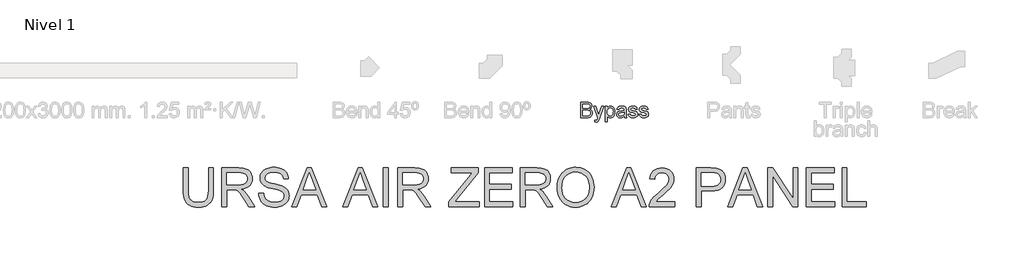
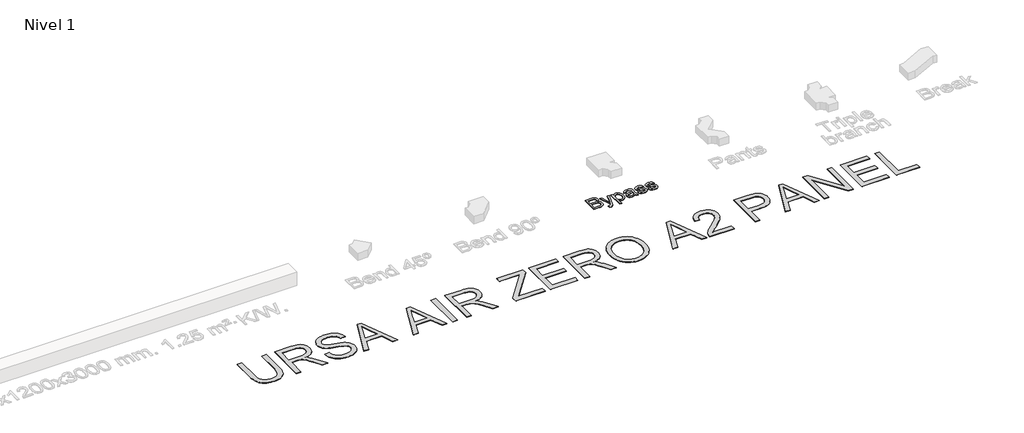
# One storey, part 3 of 6: 2 proxies.
"""IFC4 building model written with IfcOpenShell, lengths in millimetres."""

import ifcopenshell
import ifcopenshell.guid

model = None  # the IFC model being written
_history = None  # IfcOwnerHistory: only IFC2X3 demands one
_inside = {}  # id of a spatial element -> (the spatial element, [elements in it])
_under = {}  # id of a project, library or spatial element -> (it, [spatial elements below it])
_declared = {}  # id of a project -> (the project, [libraries it declares])
_typed = {}  # id of a type object -> (the type object, [elements of that type])
_made_of = {}  # id of a material, layer set ... -> (it, [elements and type objects made of it])


def new_model(schema):
    """Start an empty IFC model of exactly this schema.

    Asked for "IFC4X3", IfcOpenShell would pick the latest addendum, in which some entities
    have other attributes; the version numbers below select the first issue.
    IFC2X3 requires an IfcOwnerHistory on every rooted entity: one is made here for all.
    """
    global model, _history
    if schema == "IFC4X3":
        model = ifcopenshell.file(schema_version=(4, 3, 0, 0))
    else:
        model = ifcopenshell.file(schema=schema)
    _inside.clear()
    _under.clear()
    _declared.clear()
    _typed.clear()
    _made_of.clear()
    _history = None
    if model.schema == "IFC2X3":
        org = make("IfcOrganization", Name="unknown")
        user = make(
            "IfcPersonAndOrganization",
            ThePerson=make("IfcPerson", FamilyName="unknown"),
            TheOrganization=org,
        )
        app = make(
            "IfcApplication",
            ApplicationDeveloper=org,
            Version="unknown",
            ApplicationFullName="unknown",
            ApplicationIdentifier="unknown",
        )
        _history = make(
            "IfcOwnerHistory",
            OwningUser=user,
            OwningApplication=app,
            ChangeAction="ADDED",
            CreationDate=0,
        )
    return model


def make(cls, **values):
    """One entity of the class cls with the attributes given. An attribute that is None is left unset."""
    return model.create_entity(
        cls, **{name: value for name, value in values.items() if value is not None}
    )


def rooted(cls, **values):
    """An entity with a GlobalId (a new one), such as an element, a storey or a relation."""
    return make(cls, GlobalId=ifcopenshell.guid.new(), OwnerHistory=_history, **values)


def si_unit(unit_type, name, prefix=None):
    """IfcSIUnit, for example si_unit("LENGTHUNIT", "METRE", prefix="MILLI")."""
    return make("IfcSIUnit", UnitType=unit_type, Prefix=prefix, Name=name)


def assignment(units):
    """IfcUnitAssignment: the units of a project."""
    return None if units is None else make("IfcUnitAssignment", Units=units)


def point(xyz):
    """IfcCartesianPoint."""
    return None if xyz is None else make("IfcCartesianPoint", Coordinates=xyz)


def direction(xyz):
    """IfcDirection."""
    return None if xyz is None else make("IfcDirection", DirectionRatios=xyz)


def frame(location, z_axis=None, x_axis=None):
    """IfcAxis2Placement3D, a coordinate frame: its origin and axes. An axis left out is left unset."""
    return make(
        "IfcAxis2Placement3D",
        Location=point(location),
        Axis=direction(z_axis),
        RefDirection=direction(x_axis),
    )


def origin():
    """The frame at (0, 0, 0) with its axes left unset."""
    return frame((0.0, 0.0, 0.0))


def origin_with_axes():
    """The frame at (0, 0, 0) with the z axis (0, 0, 1) and the x axis (1, 0, 0) written out."""
    return frame((0.0, 0.0, 0.0), z_axis=(0.0, 0.0, 1.0), x_axis=(1.0, 0.0, 0.0))


def place(relative_to, where):
    """IfcLocalPlacement: puts the frame where relative to a parent placement (None: the world)."""
    return make(
        "IfcLocalPlacement", PlacementRelTo=relative_to, RelativePlacement=where
    )


def context(
    kind, dimensions, precision=None, world=None, true_north=None, identifier=None
):
    """IfcGeometricRepresentationContext, for example the 3D "Model" context."""
    return make(
        "IfcGeometricRepresentationContext",
        ContextIdentifier=identifier,
        ContextType=kind,
        CoordinateSpaceDimension=dimensions,
        Precision=precision,
        WorldCoordinateSystem=world,
        TrueNorth=true_north,
    )


def project(units=None, contexts=None):
    """IfcProject with its units and contexts."""
    return rooted(
        "IfcProject",
        Name="project",
        RepresentationContexts=contexts,
        UnitsInContext=assignment(units),
    )


def spatial(cls, under=None, at=None, **own):
    """A site, building, storey or space (cls), placed at a placement, below another one or the project."""
    s = rooted(cls, ObjectPlacement=at, **own)
    if under is not None:
        _under.setdefault(under.id(), (under, []))[1].append(s)
    return s


def polyline(points):
    """IfcPolyline through the points."""
    return make("IfcPolyline", Points=[point(p) for p in points])


def outline(outer, holes=None, kind="AREA"):
    """IfcArbitraryClosedProfileDef: a profile drawn as a closed curve; with holes, ...WithVoids."""
    if holes is None:
        return make("IfcArbitraryClosedProfileDef", ProfileType=kind, OuterCurve=outer)
    return make(
        "IfcArbitraryProfileDefWithVoids",
        ProfileType=kind,
        OuterCurve=outer,
        InnerCurves=holes,
    )


def extrude(swept, where, along, depth):
    """IfcExtrudedAreaSolid: the profile swept, set in the frame where, extruded along a direction by depth."""
    return make(
        "IfcExtrudedAreaSolid",
        SweptArea=swept,
        Position=where,
        ExtrudedDirection=direction(along),
        Depth=depth,
    )


def shape(context_of_items, identifier, shape_type, items):
    """IfcShapeRepresentation: the items that make up one representation, for example the "Body"."""
    return make(
        "IfcShapeRepresentation",
        ContextOfItems=context_of_items,
        RepresentationIdentifier=identifier,
        RepresentationType=shape_type,
        Items=items,
    )


def made_of(thing, what):
    """Note that an element or type object is made of a material, layer set ...; save() writes the relation."""
    if what is not None:
        _made_of.setdefault(what.id(), (what, []))[1].append(thing)
    return thing


def element(
    cls,
    number,
    at=None,
    inside=None,
    cuts=None,
    type_object=None,
    material=None,
    context=None,
    identifier="Body",
    shape_type=None,
    held_by="IfcProductDefinitionShape",
    body=None,
    shapes=None,
    **own,
):
    """One element of the class cls, such as IfcWall. Its Tag is "e" and its number.

    at: its placement. inside: the storey or other place that contains it. cuts: it is an
    opening in that element (IfcRelVoidsElement). A single representation is given by context,
    identifier, shape_type and body (its items); several are given by shapes. held_by: the class
    of the entity that holds the representations. save() writes the other relations.
    """
    e = rooted(cls, Tag="e%d" % number, ObjectPlacement=at, **own)
    if body is not None:
        shapes = [shape(context, identifier, shape_type, body)]
    if shapes is not None:
        e.Representation = make(held_by, Representations=shapes)
    if inside is not None:
        _inside.setdefault(inside.id(), (inside, []))[1].append(e)
    if cuts is not None:
        rooted(
            "IfcRelVoidsElement", RelatingBuildingElement=cuts, RelatedOpeningElement=e
        )
    if type_object is not None:
        _typed.setdefault(type_object.id(), (type_object, []))[1].append(e)
    return made_of(e, material)


def aggregate(whole, parts):
    """IfcRelAggregates: a whole, such as a stair, and the parts it consists of."""
    return rooted("IfcRelAggregates", RelatingObject=whole, RelatedObjects=parts)


def save(model, path):
    """Write the relations noted so far, then the file.

    IfcRelAggregates (storeys below a building ...), IfcRelContainedInSpatialStructure (elements
    in a storey), IfcRelDefinesByType, IfcRelAssociatesMaterial and IfcRelDeclares: one each for
    every whole, place, type object, material and project.
    """
    for whole, parts in _under.values():
        aggregate(whole, parts)
    for where, things in _inside.values():
        rooted(
            "IfcRelContainedInSpatialStructure",
            RelatedElements=things,
            RelatingStructure=where,
        )
    for kind, things in _typed.values():
        rooted("IfcRelDefinesByType", RelatedObjects=things, RelatingType=kind)
    for what, things in _made_of.values():
        rooted("IfcRelAssociatesMaterial", RelatedObjects=things, RelatingMaterial=what)
    for by, libraries in _declared.values():
        rooted("IfcRelDeclares", RelatingContext=by, RelatedDefinitions=libraries)
    model.write(path)


model = new_model("IFC4")

# Units and contexts
model_context = context("Model", 3, world=origin())
ifc_project = project(units=[si_unit("LENGTHUNIT", "METRE", prefix="MILLI")], contexts=[model_context])

# Site, building, storey
site = spatial("IfcSite", under=ifc_project)
building = spatial("IfcBuilding", under=site)
storey = spatial("IfcBuildingStorey", under=building, Name="Nivel 1", Elevation=0.0)

# Proxies
placement = place(None, origin())
element("IfcBuildingElementProxy", 1, Name="Texto de modelo 1", ObjectType="Texto de modelo 1", at=placement, inside=storey, context=model_context, shape_type="SweptSolid", body=[
    extrude(outline(polyline([(-6221.1990814, -1016.3248037), (-6221.1990814, -614.4995631), (-6067.8658658, -614.4995631), (-6025.6943264, -617.4548818), (-5992.7688878, -626.3208379), (-5967.532183, -641.3181605), (-5948.4268447, -662.667579), (-5936.3971034, -687.7816565), (-5932.3871897, -714.0729565), (-5935.7594413, -738.267329), (-5945.8761962, -761.014699), (-5962.8110307, -780.917115), (-5986.6375212, -796.5766252), (-5958.1757175, -811.4390578), (-5937.1451302, -834.0515378), (-5924.1588957, -862.9180117), (-5919.8301509, -896.5424261), (-5922.7854696, -924.5627714), (-5931.6514257, -950.547503), (-5944.8829148, -972.6449481), (-5960.9348325, -989.0034342), (-5980.5919938, -1000.8492344), (-6004.6392135, -1009.4086222), (-6033.8613067, -1014.5957583), (-6069.0430882, -1016.3248037), (-6221.1990814, -1016.3248037)]), holes=[polyline([(-6170.9709263, -777.7410671), (-6079.2456822, -777.7410671), (-6025.6820637, -773.424585), (-6006.9323446, -765.981106), (-5993.4556009, -754.8342815), (-5985.3254088, -740.1557899), (-5982.6153448, -722.1173094), (-5985.1414678, -704.6061264), (-5992.7198369, -689.3512864), (-6005.0070955, -677.4441725), (-6021.6598872, -669.976168), (-6047.2154231, -666.0398306), (-6086.2109146, -664.7277182), (-6170.9709263, -664.7277182), (-6170.9709263, -777.7410671)]), polyline([(-6170.9709263, -966.0966486), (-6067.9639676, -966.0966486), (-6030.6852588, -964.1346113), (-5999.1455091, -953.1962533), (-5987.569489, -943.7662115), (-5978.2498117, -930.8780789), (-5972.1061824, -915.1082041), (-5970.058306, -897.0329354), (-5972.4618017, -876.0391362), (-5979.6722888, -857.988393), (-5992.2661158, -843.8739871), (-6010.8196311, -834.6891999), (-6037.0986682, -829.6492166), (-6072.8690609, -827.9692222), (-6170.9709263, -827.9692222), (-6170.9709263, -966.0966486)])]), origin_with_axes(), (0.0, 0.0, 1.0), 10.0),
    extrude(outline(polyline([(-5857.0449571, -1129.3381526), (-5863.3234765, -1080.973933), (-5837.8169915, -1085.3885169), (-5824.4015614, -1084.0028281), (-5813.9782382, -1079.8457615), (-5799.3610602, -1064.3947177), (-5785.6267991, -1027.4103145), (-5781.7027245, -1015.2456832), (-5888.437554, -721.2343926), (-5835.4625467, -721.2343926), (-5778.8577704, -885.0645078), (-5759.1392954, -950.5965539), (-5739.4208205, -892.7164533), (-5681.2464143, -721.2343926), (-5628.6638145, -721.2343926), (-5731.3764675, -1023.388138), (-5758.0601749, -1088.9201841), (-5771.7208597, -1109.8404069), (-5787.1964289, -1124.3349575), (-5805.1735958, -1132.7962434), (-5826.3390732, -1135.616672), (-5857.0449571, -1129.3381526)])), origin_with_axes(), (0.0, 0.0, 1.0), 10.0),
    extrude(outline(polyline([(-5587.0686235, -1129.3381526), (-5587.0686235, -721.2343926), (-5536.8404685, -721.2343926), (-5536.8404685, -770.4815291), (-5520.4574569, -746.1890546), (-5502.1124081, -728.8372872), (-5480.7262015, -718.4262267), (-5455.2197165, -714.9558732), (-5421.2519456, -719.8119156), (-5391.5516058, -734.3800426), (-5367.369496, -757.7773375), (-5349.9564149, -789.1208835), (-5339.4349899, -826.1298122), (-5335.9278482, -866.5232553), (-5339.888711, -909.4796096), (-5351.7712994, -947.8987526), (-5371.1954688, -979.8309098), (-5397.7810743, -1003.3263065), (-5428.7444756, -1017.7840689), (-5461.3020321, -1022.6033231), (-5484.3927587, -1019.3782243), (-5505.0064132, -1009.7029278), (-5522.6524862, -995.0980126), (-5536.8404685, -977.0840575), (-5536.8404685, -1129.3381526), (-5587.0686235, -1129.3381526)]), holes=[polyline([(-5536.8404685, -871.1340429), (-5531.4080777, -916.1627991), (-5524.6175892, -933.6004057), (-5515.1109053, -947.6534979), (-5491.0636855, -966.1947505), (-5477.3018332, -970.8300636), (-5462.3811526, -972.375168), (-5447.2458742, -970.7748813), (-5433.2326359, -965.9740213), (-5420.3414376, -957.9725879), (-5408.5722795, -946.7705811), (-5398.7651586, -932.2085855), (-5391.7600723, -914.1271854), (-5387.5570205, -892.526381), (-5386.1560032, -867.406172), (-5391.6251822, -822.6226705), (-5398.461656, -805.0501739), (-5408.0327192, -790.6905133), (-5432.0431508, -771.5606496), (-5445.6486532, -766.7781836), (-5460.3210135, -765.1840283), (-5474.9473885, -766.8793512), (-5488.7092408, -771.9653198), (-5513.6393773, -792.3091941), (-5523.7898547, -807.4076843), (-5531.0401957, -825.5779892), (-5535.3904003, -846.8201087), (-5536.8404685, -871.1340429)])]), origin_with_axes(), (0.0, 0.0, 1.0), 10.0),
    extrude(outline(polyline([(-5091.0655922, -978.6536874), (-5115.063761, -999.2305537), (-5139.7731683, -1012.6950347), (-5165.7578999, -1020.126251), (-5193.5820415, -1022.6033231), (-5215.9462011, -1021.113401), (-5235.5573772, -1016.6436348), (-5252.4155696, -1009.1940244), (-5266.5207784, -998.7645698), (-5277.6584058, -986.0174587), (-5285.613854, -971.6148785), (-5290.3871228, -955.5568295), (-5291.9782125, -937.8433114), (-5289.5747168, -917.0211905), (-5282.3642297, -898.1120559), (-5271.2419307, -881.9252481), (-5257.1029993, -869.2701075), (-5240.4869959, -859.7051756), (-5221.9334806, -852.7889941), (-5178.4743542, -845.2351505), (-5127.1180277, -837.2888994), (-5091.3598978, -827.9692222), (-5091.0655922, -816.7856095), (-5094.5236829, -794.3693333), (-5104.8979552, -779.7031044), (-5128.0990464, -768.8137973), (-5160.423611, -765.1840283), (-5190.3446799, -767.5997868), (-5211.2403773, -774.8470621), (-5225.4896732, -788.2502294), (-5235.471538, -809.133664), (-5285.6996931, -802.8551446), (-5276.9808898, -775.3866223), (-5263.9701299, -753.8042119), (-5245.4534028, -737.2985731), (-5220.216698, -725.0603654), (-5189.3513986, -717.4819963), (-5153.9488879, -714.9558732), (-5119.9933797, -717.1876907), (-5093.0766804, -723.883143), (-5072.781857, -733.9508469), (-5058.6919766, -746.2994192), (-5049.3477739, -761.566522), (-5043.2899837, -780.3898175), (-5040.8374371, -824.3394531), (-5040.8374371, -886.8303414), (-5038.2867886, -974.0919506), (-5028.2803983, -1016.3248037), (-5078.5085534, -1016.3248037), (-5086.5529064, -998.8626717), (-5091.0655922, -978.6536874)]), holes=[polyline([(-5091.0655922, -878.1973772), (-5124.8126339, -886.5605613), (-5172.097733, -893.5993701), (-5215.3116047, -901.7418249), (-5226.556531, -907.3091058), (-5234.8829268, -914.9855768), (-5240.0332748, -924.1826266), (-5241.7500574, -934.3116442), (-5238.0099238, -949.2476532), (-5226.7895229, -961.4858609), (-5208.3341095, -969.6528412), (-5182.8889382, -972.375168), (-5155.9109252, -969.3707984), (-5132.0721719, -960.3576895), (-5112.7461044, -947.0771495), (-5099.3061489, -931.2704864), (-5093.3464605, -914.9855768), (-5091.3598978, -892.4221477), (-5091.0655922, -878.1973772)])]), origin_with_axes(), (0.0, 0.0, 1.0), 10.0),
    extrude(outline(polyline([(-4990.609282, -928.4255323), (-4940.381127, -922.1470129), (-4932.4594013, -943.6313214), (-4917.1309849, -959.4257218), (-4894.2977757, -969.1378064), (-4863.861672, -972.375168), (-4833.7934502, -969.4075866), (-4812.6524982, -960.5048423), (-4800.1445104, -947.604447), (-4795.9751811, -932.6439125), (-4800.1690359, -919.8416191), (-4812.7506001, -910.0804835), (-4864.4502832, -895.7576111), (-4940.0868214, -871.1830939), (-4959.2289478, -858.8345216), (-4973.0980991, -842.4882982), (-4981.5225967, -823.1867562), (-4984.3307626, -801.9722278), (-4982.0744197, -782.5112703), (-4975.305391, -764.5463662), (-4964.6368132, -748.7887541), (-4950.6818228, -735.9496724), (-4918.7496656, -721.0872398), (-4897.866231, -716.4887149), (-4875.5357939, -714.9558732), (-4842.8433473, -717.4206826), (-4814.4183318, -724.8151107), (-4791.5605972, -736.4156563), (-4775.5699931, -751.4988181), (-4764.9749917, -771.1805048), (-4758.3040648, -796.5766252), (-4808.5322199, -802.8551446), (-4814.8720529, -787.0484816), (-4827.416829, -775.1413677), (-4846.2891753, -767.6733632), (-4871.6117193, -765.1840283), (-4900.4536677, -767.5629986), (-4919.6816334, -774.6999093), (-4930.497364, -785.0006051), (-4934.1026076, -796.8709308), (-4928.1183938, -811.4881088), (-4909.3809375, -822.5736196), (-4866.1180149, -833.2667229), (-4792.394463, -856.9092725), (-4772.9212428, -868.2155124), (-4758.156912, -883.6910817), (-4748.8494975, -903.3850312), (-4745.747026, -927.3464118), (-4749.3890578, -952.1171328), (-4760.315153, -975.4163258), (-4778.1083789, -995.4168436), (-4802.3518024, -1010.291539), (-4831.6352092, -1019.5253771), (-4864.548385, -1022.6033231), (-4891.5815803, -1021.1195324), (-4915.193473, -1016.6681602), (-4935.3840632, -1009.2492067), (-4952.1533508, -998.8626717), (-4965.8508238, -985.5576062), (-4976.8259699, -969.3830611), (-4985.0787894, -950.3390365), (-4990.609282, -928.4255323)])), origin_with_axes(), (0.0, 0.0, 1.0), 10.0),
    extrude(outline(polyline([(-4708.0759097, -928.4255323), (-4657.8477547, -922.1470129), (-4649.926029, -943.6313214), (-4634.5976126, -959.4257218), (-4611.7644034, -969.1378064), (-4581.3282997, -972.375168), (-4551.2600779, -969.4075866), (-4530.1191259, -960.5048423), (-4517.6111381, -947.604447), (-4513.4418088, -932.6439125), (-4517.6356636, -919.8416191), (-4530.2172278, -910.0804835), (-4581.9169109, -895.7576111), (-4657.5534491, -871.1830939), (-4676.6955755, -858.8345216), (-4690.5647268, -842.4882982), (-4698.9892245, -823.1867562), (-4701.7973903, -801.9722278), (-4699.5410474, -782.5112703), (-4692.7720187, -764.5463662), (-4682.1034409, -748.7887541), (-4668.1484505, -735.9496724), (-4636.2162933, -721.0872398), (-4615.3328587, -716.4887149), (-4593.0024216, -714.9558732), (-4560.309975, -717.4206826), (-4531.8849595, -724.8151107), (-4509.0272249, -736.4156563), (-4493.0366208, -751.4988181), (-4482.4416194, -771.1805048), (-4475.7706925, -796.5766252), (-4525.9988476, -802.8551446), (-4532.3386806, -787.0484816), (-4544.8834567, -775.1413677), (-4563.755803, -767.6733632), (-4589.078347, -765.1840283), (-4617.9202954, -767.5629986), (-4637.1482611, -774.6999093), (-4647.9639917, -785.0006051), (-4651.5692353, -796.8709308), (-4645.5850215, -811.4881088), (-4626.8475652, -822.5736196), (-4583.5846426, -833.2667229), (-4509.8610907, -856.9092725), (-4490.3878705, -868.2155124), (-4475.6235397, -883.6910817), (-4466.3161252, -903.3850312), (-4463.2136537, -927.3464118), (-4466.8556855, -952.1171328), (-4477.7817808, -975.4163258), (-4495.5750066, -995.4168436), (-4519.8184301, -1010.291539), (-4549.1018369, -1019.5253771), (-4582.0150127, -1022.6033231), (-4609.048208, -1021.1195324), (-4632.6601007, -1016.6681602), (-4652.8506909, -1009.2492067), (-4669.6199785, -998.8626717), (-4683.3174515, -985.5576062), (-4694.2925976, -969.3830611), (-4702.5454171, -950.3390365), (-4708.0759097, -928.4255323)])), origin_with_axes(), (0.0, 0.0, 1.0), 10.0),
])
element("IfcBuildingElementProxy", 2, Name="Texto de modelo 2", ObjectType="Texto de modelo 2", at=placement, inside=storey, context=model_context, shape_type="SweptSolid", body=[
    extrude(outline(polyline([(-15876.2135615, -2321.7490961), (-15750.6431738, -2321.7490961), (-15750.6431738, -2901.2858659), (-15752.7738237, -2973.0458476), (-15759.1657733, -3037.0036653), (-15769.8190228, -3093.159319), (-15784.733572, -3141.5128087), (-15805.197008, -3183.8958802), (-15832.4969177, -3222.1402793), (-15866.6333012, -3256.246006), (-15907.6061584, -3286.2130602), (-15955.4614746, -3310.6235634), (-16010.2452351, -3328.0596371), (-16071.9574397, -3338.5212813), (-16140.5980887, -3342.0084961), (-16207.5449476, -3338.9734696), (-16268.0998568, -3329.8683902), (-16322.2628164, -3314.6932579), (-16370.0338263, -3293.4480727), (-16411.4205508, -3266.4470671), (-16446.430654, -3234.0044737), (-16475.064136, -3196.1202924), (-16497.3209967, -3152.7945232), (-16514.005978, -3102.5403099), (-16525.9238218, -3043.8707958), (-16533.0745281, -2976.7859812), (-16535.4580968, -2901.2858659), (-16535.4580968, -2321.7490961), (-16409.8877091, -2321.7490961), (-16409.8877091, -2896.8712819), (-16408.3395391, -2957.5794753), (-16403.6950289, -3009.7190839), (-16395.9541786, -3053.2901078), (-16385.1169881, -3088.2925467), (-16370.5090072, -3117.2555897), (-16351.4557856, -3142.7084252), (-16327.9573231, -3164.6510534), (-16300.0136199, -3183.0834742), (-16268.1611705, -3197.6761266), (-16232.9364695, -3208.0994498), (-16194.3395168, -3214.3534438), (-16152.3703125, -3216.4381084), (-16083.1625122, -3212.3147644), (-16024.6539465, -3199.9447323), (-15976.8446156, -3179.3280121), (-15956.9521631, -3165.927144), (-15939.7345193, -3150.4646039), (-15924.8467948, -3132.0705042), (-15911.9441003, -3109.8749571), (-15892.0938009, -3054.0795212), (-15880.1836213, -2983.0782961), (-15876.2135615, -2896.8712819), (-15876.2135615, -2321.7490961)])), origin_with_axes(), (0.0, 0.0, 1.0), 10.0),
    extrude(outline(polyline([(-15530.8949953, -3326.3121976), (-15530.8949953, -2321.7490961), (-15098.0205143, -2321.7490961), (-15035.8867782, -2323.4428862), (-14981.6778334, -2328.5242562), (-14935.3936799, -2336.9932063), (-14897.0343177, -2348.8497364), (-14864.3694622, -2365.0058874), (-14835.1688288, -2386.3737), (-14809.4324175, -2412.9531741), (-14787.1602284, -2444.7443099), (-14769.1876601, -2480.0379888), (-14756.3501113, -2517.1250924), (-14748.6475821, -2556.0056208), (-14746.0800723, -2596.6795739), (-14750.3337079, -2648.2750237), (-14763.0946146, -2695.6398306), (-14784.3627924, -2738.7739945), (-14814.1382414, -2777.6775155), (-14852.8041719, -2811.1087918), (-14900.7437944, -2837.8262217), (-14957.9571089, -2857.8298052), (-15024.4441153, -2871.1195423), (-14983.0573909, -2898.1588689), (-14953.0750082, -2924.8303136), (-14901.6328426, -2985.8374111), (-14851.2943229, -3054.0795212), (-14683.7853878, -3326.3121976), (-14829.7119125, -3326.3121976), (-14960.4326482, -3118.0909884), (-15012.7332051, -3038.6284774), (-15054.8556936, -2980.2578675), (-15089.9577673, -2940.0667595), (-15121.19708, -2915.1427544), (-15150.7809238, -2900.519445), (-15180.9165906, -2891.2304247), (-15253.7572256, -2886.8158407), (-15405.3246077, -2886.8158407), (-15405.3246077, -3326.3121976), (-15530.8949953, -3326.3121976)]), holes=[polyline([(-15405.3246077, -2761.245453), (-15124.2627633, -2761.245453), (-15043.5433222, -2756.8002123), (-14980.9114126, -2743.4644899), (-14955.7268243, -2733.2404362), (-14933.7612035, -2720.3492379), (-14915.0145502, -2704.7908952), (-14899.4868643, -2686.565408), (-14887.3084374, -2666.5694887), (-14878.6095611, -2645.6998497), (-14873.3902353, -2623.956491), (-14871.65046, -2601.3394125), (-14874.9690621, -2569.22638), (-14884.9248686, -2540.0870603), (-14901.5178795, -2513.9214534), (-14924.7480946, -2490.7295593), (-14955.1520087, -2471.7376513), (-14993.2661162, -2458.1720027), (-15039.0904172, -2450.0326135), (-15092.6249118, -2447.3194838), (-15405.3246077, -2447.3194838), (-15405.3246077, -2761.245453)])]), origin_with_axes(), (0.0, 0.0, 1.0), 10.0),
    extrude(outline(polyline([(-14573.4207892, -2980.9936315), (-14447.8504015, -2980.9936315), (-14442.1022454, -3017.5442406), (-14433.4416901, -3050.6766127), (-14421.8687356, -3080.3907481), (-14407.3833821, -3106.6866465), (-14389.2498654, -3130.0931385), (-14366.7324216, -3151.1390543), (-14339.8310507, -3169.8243939), (-14308.5457527, -3186.1491575), (-14274.0261588, -3199.4005735), (-14237.4219003, -3208.8658707), (-14198.7329771, -3214.545049), (-14157.9593893, -3216.4381084), (-14088.0004966, -3210.7052806), (-14056.2860029, -3203.5392459), (-14026.7481444, -3193.5067974), (-14000.1150208, -3180.9681527), (-13977.1147319, -3166.2835297), (-13957.7472777, -3149.4529284), (-13942.0126582, -3130.4763489), (-13929.8342313, -3110.1738613), (-13921.1353549, -3089.3655359), (-13915.9160291, -3068.0513728), (-13914.1762539, -3046.231372), (-13919.3879155, -3004.200854), (-13935.0229003, -2967.872507), (-13948.1746816, -2951.7546771), (-13966.7833792, -2936.8784489), (-13990.848993, -2923.2438225), (-14020.3715231, -2910.8507977), (-14086.6822528, -2891.1384542), (-14203.2088747, -2862.903511), (-14323.2303757, -2831.173689), (-14367.0313257, -2815.8835935), (-14400.0257422, -2800.9767085), (-14433.5566532, -2780.973125), (-14462.5350245, -2758.7315927), (-14486.9608562, -2734.2521116), (-14506.8341481, -2707.5346817), (-14522.2315424, -2678.8552145), (-14533.2296813, -2648.4896215), (-14539.8285645, -2616.4379027), (-14542.0281923, -2582.700058), (-14539.3073984, -2545.3063861), (-14531.1450166, -2509.1543158), (-14517.541047, -2474.2438473), (-14498.4954895, -2440.5749806), (-14474.2229421, -2409.5196088), (-14444.9380024, -2382.4496253), (-14410.6406706, -2359.3650301), (-14371.3309465, -2340.2658232), (-14328.3347384, -2325.2976245), (-14282.977954, -2314.6060541), (-14235.2605936, -2308.1911118), (-14185.182657, -2306.0527977), (-14130.5521807, -2308.2907465), (-14079.2326424, -2315.0045929), (-14031.224042, -2326.1943369), (-13986.5263796, -2341.8599785), (-13945.9673896, -2361.863562), (-13910.3748066, -2386.0671316), (-13879.7486305, -2414.4706873), (-13854.0888613, -2447.0742292), (-13833.5947685, -2482.9273953), (-13818.4656215, -2521.0798239), (-13808.7014202, -2561.5315149), (-13804.3021646, -2604.2824684), (-13929.8725523, -2604.2824684), (-13938.2725246, -2564.2139878), (-13952.9264907, -2529.3571687), (-13973.8344508, -2499.7120113), (-14000.9964047, -2475.2785155), (-14034.9181904, -2456.1793085), (-14076.1056454, -2442.5370179), (-14124.5587699, -2434.3516435), (-14180.2775637, -2431.6231854), (-14237.7744539, -2434.3209867), (-14286.9020286, -2442.4143906), (-14327.660288, -2455.903397), (-14360.049232, -2474.7880061), (-14384.7279825, -2497.4893909), (-14402.3556615, -2522.4287245), (-14412.9322688, -2549.6060069), (-14416.4578046, -2579.0212381), (-14413.9592727, -2604.3284537), (-14406.4636771, -2627.2750931), (-14393.9710177, -2647.8611564), (-14376.4812945, -2666.0866436), (-14348.9514585, -2683.3464406), (-14305.6026967, -2700.7901785), (-14246.4350092, -2718.4178574), (-14171.4483958, -2736.2294774), (-14033.0021383, -2769.8906799), (-13984.2884308, -2785.1117975), (-13949.2476707, -2799.2599259), (-13910.7503528, -2820.7043805), (-13877.6639658, -2844.8159796), (-13849.9885099, -2871.5947232), (-13827.723985, -2901.0406112), (-13810.609808, -2933.0003595), (-13798.3853959, -2967.320684), (-13791.0507486, -3004.0015846), (-13788.6058662, -3043.0430613), (-13791.4186306, -3082.3221285), (-13799.8569239, -3120.4515645), (-13813.920746, -3157.4313692), (-13833.6100969, -3193.2615427), (-13858.5800873, -3226.5548633), (-13888.4858279, -3255.9241092), (-13923.3273185, -3281.3692806), (-13963.1045592, -3302.8903773), (-14006.6602546, -3320.0045543), (-14052.8371092, -3332.2289664), (-14101.635123, -3339.5636137), (-14153.0542961, -3342.0084961), (-14217.2880253, -3339.3720085), (-14276.0801666, -3331.4625456), (-14329.4307201, -3318.2801074), (-14377.3396858, -3299.824694), (-14420.0983035, -3276.0656485), (-14457.9978132, -3246.972314), (-14491.0382149, -3212.5446906), (-14519.2195086, -3172.7827783), (-14541.9208934, -3128.974164), (-14558.5215684, -3082.4064348), (-14569.0215337, -3033.0795906), (-14573.4207892, -2980.9936315)])), origin_with_axes(), (0.0, 0.0, 1.0), 10.0),
    extrude(outline(polyline([(-13717.2367591, -3326.3121976), (-13316.2453844, -2321.7490961), (-13209.3143511, -2321.7490961), (-12808.3229764, -3326.3121976), (-12941.0057493, -3326.3121976), (-13056.0301865, -3012.3862284), (-13469.7748037, -3012.3862284), (-13584.5539862, -3326.3121976), (-13717.2367591, -3326.3121976)]), holes=[polyline([(-13423.666927, -2886.8158407), (-13101.8928085, -2886.8158407), (-13192.3917793, -2639.8443946), (-13262.7798677, -2447.3194838), (-13325.3198069, -2618.2619842), (-13423.666927, -2886.8158407)])]), origin_with_axes(), (0.0, 0.0, 1.0), 10.0),
    extrude(outline(polyline([(-12398.7476884, -3326.3121976), (-11997.7563137, -2321.7490961), (-11890.8252804, -2321.7490961), (-11489.8339057, -3326.3121976), (-11622.5166786, -3326.3121976), (-11737.5411157, -3012.3862284), (-12151.285733, -3012.3862284), (-12266.0649155, -3326.3121976), (-12398.7476884, -3326.3121976)]), holes=[polyline([(-12105.1778563, -2886.8158407), (-11783.4037378, -2886.8158407), (-11873.9027086, -2639.8443946), (-11944.290797, -2447.3194838), (-12006.8307362, -2618.2619842), (-12105.1778563, -2886.8158407)])]), origin_with_axes(), (0.0, 0.0, 1.0), 10.0),
    extrude(outline(polyline([(-11339.9833063, -3326.3121976), (-11339.9833063, -2321.7490961), (-11214.4129186, -2321.7490961), (-11214.4129186, -3326.3121976), (-11339.9833063, -3326.3121976)])), origin_with_axes(), (0.0, 0.0, 1.0), 10.0),
    extrude(outline(polyline([(-10963.2721432, -3326.3121976), (-10963.2721432, -2321.7490961), (-10530.3976622, -2321.7490961), (-10468.2639261, -2323.4428862), (-10414.0549813, -2328.5242562), (-10367.7708277, -2336.9932063), (-10329.4114655, -2348.8497364), (-10296.74661, -2365.0058874), (-10267.5459767, -2386.3737), (-10241.8095654, -2412.9531741), (-10219.5373763, -2444.7443099), (-10201.564808, -2480.0379888), (-10188.7272592, -2517.1250924), (-10181.0247299, -2556.0056208), (-10178.4572202, -2596.6795739), (-10182.7108558, -2648.2750237), (-10195.4717625, -2695.6398306), (-10216.7399403, -2738.7739945), (-10246.5153893, -2777.6775155), (-10285.1813198, -2811.1087918), (-10333.1209423, -2837.8262217), (-10390.3342568, -2857.8298052), (-10456.8212632, -2871.1195423), (-10415.4345387, -2898.1588689), (-10385.4521561, -2924.8303136), (-10334.0099905, -2985.8374111), (-10283.6714708, -3054.0795212), (-10116.1625357, -3326.3121976), (-10262.0890604, -3326.3121976), (-10392.809796, -3118.0909884), (-10445.110353, -3038.6284774), (-10487.2328415, -2980.2578675), (-10522.3349152, -2940.0667595), (-10553.5742279, -2915.1427544), (-10583.1580717, -2900.519445), (-10613.2937385, -2891.2304247), (-10686.1343735, -2886.8158407), (-10837.7017555, -2886.8158407), (-10837.7017555, -3326.3121976), (-10963.2721432, -3326.3121976)]), holes=[polyline([(-10837.7017555, -2761.245453), (-10556.6399112, -2761.245453), (-10475.9204701, -2756.8002123), (-10413.2885604, -2743.4644899), (-10388.1039722, -2733.2404362), (-10366.1383514, -2720.3492379), (-10347.391698, -2704.7908952), (-10331.8640122, -2686.565408), (-10319.6855853, -2666.5694887), (-10310.9867089, -2645.6998497), (-10305.7673831, -2623.956491), (-10304.0276079, -2601.3394125), (-10307.34621, -2569.22638), (-10317.3020165, -2540.0870603), (-10333.8950274, -2513.9214534), (-10357.1252425, -2490.7295593), (-10387.5291566, -2471.7376513), (-10425.6432641, -2458.1720027), (-10471.4675651, -2450.0326135), (-10525.0020596, -2447.3194838), (-10837.7017555, -2447.3194838), (-10837.7017555, -2761.245453)])]), origin_with_axes(), (0.0, 0.0, 1.0), 10.0),
    extrude(outline(polyline([(-9644.7830725, -3326.3121976), (-9644.7830725, -3196.0819713), (-9130.9745526, -2567.0037596), (-9033.3631965, -2447.3194838), (-9581.9978787, -2447.3194838), (-9581.9978787, -2321.7490961), (-8875.6644479, -2321.7490961), (-8875.6644479, -2447.3194838), (-9438.0333912, -3135.7493241), (-9491.0083985, -3200.7418099), (-8859.9681495, -3200.7418099), (-8859.9681495, -3326.3121976), (-9644.7830725, -3326.3121976)])), origin_with_axes(), (0.0, 0.0, 1.0), 10.0),
    extrude(outline(polyline([(-8718.7014633, -3326.3121976), (-8718.7014633, -2321.7490961), (-7996.6717341, -2321.7490961), (-7996.6717341, -2447.3194838), (-8593.1310756, -2447.3194838), (-8593.1310756, -2745.5491546), (-8028.064331, -2745.5491546), (-8028.064331, -2871.1195423), (-8593.1310756, -2871.1195423), (-8593.1310756, -3200.7418099), (-7980.9754357, -3200.7418099), (-7980.9754357, -3326.3121976), (-8718.7014633, -3326.3121976)])), origin_with_axes(), (0.0, 0.0, 1.0), 10.0),
    extrude(outline(polyline([(-7792.6198541, -3326.3121976), (-7792.6198541, -2321.7490961), (-7359.7453731, -2321.7490961), (-7297.611637, -2323.4428862), (-7243.4026922, -2328.5242562), (-7197.1185386, -2336.9932063), (-7158.7591764, -2348.8497364), (-7126.0943209, -2365.0058874), (-7096.8936876, -2386.3737), (-7071.1572763, -2412.9531741), (-7048.8850872, -2444.7443099), (-7030.9125189, -2480.0379888), (-7018.0749701, -2517.1250924), (-7010.3724408, -2556.0056208), (-7007.8049311, -2596.6795739), (-7012.0585667, -2648.2750237), (-7024.8194734, -2695.6398306), (-7046.0876512, -2738.7739945), (-7075.8631002, -2777.6775155), (-7114.5290307, -2811.1087918), (-7162.4686532, -2837.8262217), (-7219.6819677, -2857.8298052), (-7286.1689741, -2871.1195423), (-7244.7822496, -2898.1588689), (-7214.799867, -2924.8303136), (-7163.3577014, -2985.8374111), (-7113.0191817, -3054.0795212), (-6945.5102466, -3326.3121976), (-7091.4367713, -3326.3121976), (-7222.1575069, -3118.0909884), (-7274.4580639, -3038.6284774), (-7316.5805524, -2980.2578675), (-7351.6826261, -2940.0667595), (-7382.9219388, -2915.1427544), (-7412.5057826, -2900.519445), (-7442.6414494, -2891.2304247), (-7515.4820844, -2886.8158407), (-7667.0494664, -2886.8158407), (-7667.0494664, -3326.3121976), (-7792.6198541, -3326.3121976)]), holes=[polyline([(-7667.0494664, -2761.245453), (-7385.9876221, -2761.245453), (-7305.268181, -2756.8002123), (-7242.6362713, -2743.4644899), (-7217.4516831, -2733.2404362), (-7195.4860623, -2720.3492379), (-7176.739409, -2704.7908952), (-7161.2117231, -2686.565408), (-7149.0332962, -2666.5694887), (-7140.3344198, -2645.6998497), (-7135.115094, -2623.956491), (-7133.3753188, -2601.3394125), (-7136.6939209, -2569.22638), (-7146.6497274, -2540.0870603), (-7163.2427383, -2513.9214534), (-7186.4729534, -2490.7295593), (-7216.8768675, -2471.7376513), (-7254.990975, -2458.1720027), (-7300.815276, -2450.0326135), (-7354.3497705, -2447.3194838), (-7667.0494664, -2447.3194838), (-7667.0494664, -2761.245453)])]), origin_with_axes(), (0.0, 0.0, 1.0), 10.0),
    extrude(outline(polyline([(-6835.145648, -2837.2743987), (-6833.0533192, -2776.6696721), (-6826.7763326, -2719.4448613), (-6816.3146884, -2665.5999664), (-6801.6683865, -2615.1349873), (-6782.8374268, -2568.049924), (-6759.8218095, -2524.3447766), (-6732.6215345, -2484.0195449), (-6701.2366018, -2447.0742292), (-6666.5445632, -2414.0223312), (-6629.4229706, -2385.3773529), (-6589.871824, -2361.1392943), (-6547.8911234, -2341.3081555), (-6503.4808688, -2325.8839365), (-6456.6410602, -2314.8666371), (-6407.3716976, -2308.2562575), (-6355.672781, -2306.0527977), (-6288.0897928, -2310.1914701), (-6223.909713, -2322.6074875), (-6163.1325417, -2343.3008497), (-6105.7582789, -2372.2715568), (-6053.3964083, -2408.6458891), (-6007.6564135, -2451.5501268), (-5968.5382947, -2500.9842699), (-5936.0420518, -2556.9483184), (-5910.50491, -2618.1700137), (-5892.2640944, -2683.3770974), (-5881.319605, -2752.5695693), (-5877.6714419, -2825.7474295), (-5881.5112102, -2899.89098), (-5893.0305152, -2970.0184853), (-5912.2293568, -3036.1299455), (-5939.1077351, -3098.2253606), (-5973.0295207, -3154.66459), (-6013.3585845, -3203.8074932), (-6060.0949263, -3245.6540702), (-6113.2385461, -3280.2043209), (-6170.6971153, -3307.2436475), (-6230.3783048, -3326.5574523), (-6292.2821147, -3338.1457351), (-6356.408545, -3342.0084961), (-6425.1718212, -3337.7395321), (-6490.1949639, -3324.9326401), (-6551.4779729, -3303.5878202), (-6609.0208483, -3273.7050723), (-6661.3214053, -3236.4416919), (-6706.877459, -3192.9549744), (-6745.6890095, -3143.2449198), (-6777.7560568, -3087.3115281), (-6802.8640029, -3027.4004123), (-6820.7982502, -2965.7571855), (-6831.5587986, -2902.3818476), (-6835.145648, -2837.2743987)]), holes=[polyline([(-6709.5752603, -2838.500672), (-6708.0060137, -2881.2937787), (-6703.2982738, -2921.7493019), (-6695.4520406, -2959.8672415), (-6684.4673142, -2995.6475976), (-6670.3440944, -3029.0903703), (-6653.0823814, -3060.1955594), (-6632.6821752, -3088.963165), (-6609.1434756, -3115.3931871), (-6583.2365358, -3139.0755905), (-6555.7316085, -3159.6003401), (-6526.6286938, -3176.967436), (-6495.9277916, -3191.1768781), (-6463.6289021, -3202.2286663), (-6429.7320251, -3210.1228008), (-6394.2371607, -3214.8592815), (-6357.1443089, -3216.4381084), (-6319.3731747, -3214.8439531), (-6283.314991, -3210.0614872), (-6248.9697579, -3202.0907106), (-6216.3374753, -3190.9316234), (-6185.4181432, -3176.5842256), (-6156.2117617, -3159.0485172), (-6128.7183307, -3138.3244981), (-6102.9378503, -3114.4121684), (-6079.5715954, -3087.5682791), (-6059.3208412, -3058.0495811), (-6042.1855877, -3025.8560744), (-6028.1658348, -2990.987759), (-6017.2615825, -2953.444635), (-6009.4728309, -2913.2267023), (-6004.7995799, -2870.3339609), (-6003.2418296, -2824.7664109), (-6005.9089741, -2767.3001775), (-6013.9104074, -2713.6047347), (-6027.2461298, -2663.6800822), (-6045.916141, -2617.5262203), (-6069.7135076, -2575.7486212), (-6098.4312958, -2538.9527575), (-6132.0695058, -2507.1386291), (-6170.6281374, -2480.3062361), (-6212.9115742, -2459.0074014), (-6257.7241998, -2443.793948), (-6305.066014, -2434.665876), (-6354.937017, -2431.6231854), (-6425.0032086, -2437.4863047), (-6490.0110229, -2455.0756626), (-6520.6180385, -2468.267681), (-6549.9604597, -2484.391259), (-6604.851519, -2525.4330941), (-6629.3961459, -2550.8456926), (-6650.6681558, -2580.1785335), (-6668.6675489, -2613.431617), (-6683.394325, -2650.604943), (-6694.8484842, -2691.6985115), (-6703.0300265, -2736.7123225), (-6707.9389519, -2785.646376), (-6709.5752603, -2838.500672)])]), origin_with_axes(), (0.0, 0.0, 1.0), 10.0),
    extrude(outline(polyline([(-5429.5911718, -3326.3121976), (-5028.599797, -2321.7490961), (-4921.6687638, -2321.7490961), (-4520.677389, -3326.3121976), (-4653.360162, -3326.3121976), (-4768.3845991, -3012.3862284), (-5182.1292164, -3012.3862284), (-5296.9083988, -3326.3121976), (-5429.5911718, -3326.3121976)]), holes=[polyline([(-5136.0213396, -2886.8158407), (-4814.2472212, -2886.8158407), (-4904.746192, -2639.8443946), (-4975.1342804, -2447.3194838), (-5037.6742196, -2618.2619842), (-5136.0213396, -2886.8158407)])]), origin_with_axes(), (0.0, 0.0, 1.0), 10.0),
    extrude(outline(polyline([(-3790.0637466, -3200.7418099), (-3790.0637466, -3326.3121976), (-4449.308282, -3326.3121976), (-4446.549167, -3282.1050445), (-4435.8192755, -3239.7373014), (-4422.1309996, -3205.6545674), (-4404.8558742, -3172.0776712), (-4383.9938994, -3139.0066126), (-4359.5450751, -3106.4413918), (-4330.0378734, -3073.1097502), (-4294.0007663, -3037.7394292), (-4202.3368359, -2960.8827491), (-4066.8336343, -2840.524023), (-4019.4075138, -2792.162869), (-3985.5317134, -2751.6805212), (-3961.8186531, -2715.382831), (-3944.8807529, -2679.5756501), (-3934.7180128, -2644.2589786), (-3931.3304328, -2609.4328164), (-3934.5264076, -2576.6683262), (-3944.1143321, -2546.555652), (-3960.0942063, -2519.0947939), (-3982.4660301, -2494.2857519), (-4009.9882018, -2473.7380096), (-4041.4191198, -2459.0610508), (-4076.758784, -2450.2548756), (-4116.0071943, -2447.3194838), (-4157.3555977, -2450.1858977), (-4194.3354025, -2458.7851393), (-4226.9466085, -2473.1172087), (-4255.1892158, -2493.1821059), (-4278.0362206, -2518.3053805), (-4294.4606188, -2547.8125822), (-4304.4624106, -2581.703711), (-4308.0415958, -2619.9787669), (-4433.6119835, -2604.2824684), (-4422.8131141, -2539.4585952), (-4403.1697484, -2482.8200964), (-4374.6818864, -2434.3669719), (-4337.3495281, -2394.0992219), (-4292.0310648, -2362.4460418), (-4239.5848879, -2339.8366276), (-4180.0109973, -2326.270979), (-4113.309393, -2321.7490961), (-4046.0099805, -2326.7768167), (-3986.1141932, -2341.8599785), (-3933.622031, -2366.9985815), (-3888.533494, -2402.1926257), (-3852.3201101, -2444.8362804), (-3826.4534073, -2492.3237146), (-3810.9333856, -2544.6549284), (-3805.7600451, -2601.8299218), (-3811.3395887, -2661.8866575), (-3828.0782194, -2720.9010609), (-3857.7846905, -2780.9271398), (-3902.2677551, -2844.018902), (-3932.9629091, -2879.0060125), (-3973.1770097, -2919.3427405), (-4082.1620508, -3016.0650484), (-4226.6170475, -3136.8529701), (-4257.9483308, -3168.7054195), (-4283.2708748, -3200.7418099), (-3790.0637466, -3200.7418099)])), origin_with_axes(), (0.0, 0.0, 1.0), 10.0),
    extrude(outline(polyline([(-3224.997002, -3326.3121976), (-3224.997002, -2321.7490961), (-2852.7004229, -2321.7490961), (-2766.0028994, -2324.1403291), (-2702.6045689, -2331.314028), (-2667.6634435, -2338.8479447), (-2635.6807026, -2349.1869616), (-2606.656346, -2362.3310787), (-2580.5903738, -2378.2802961), (-2557.2068745, -2397.3641746), (-2536.2299365, -2419.9122752), (-2517.65956, -2445.9245979), (-2501.4957448, -2475.4011428), (-2488.4052772, -2507.3685553), (-2479.0549431, -2540.8534811), (-2473.4447427, -2575.8559201), (-2471.5746759, -2612.3758723), (-2476.6253891, -2674.0420918), (-2491.7775288, -2730.7725611), (-2517.0310949, -2782.5672803), (-2552.3860875, -2829.4262495), (-2574.6218716, -2850.2345748), (-2600.9235182, -2868.2684568), (-2631.2910273, -2883.5278954), (-2665.7243988, -2896.0128906), (-2704.2236329, -2905.7234424), (-2746.7887293, -2912.6595509), (-2844.1165097, -2918.2084376), (-3099.4266143, -2918.2084376), (-3099.4266143, -3326.3121976), (-3224.997002, -3326.3121976)]), holes=[polyline([(-3099.4266143, -2792.63805), (-2836.7588698, -2792.63805), (-2776.3649089, -2789.7563077), (-2725.4132526, -2781.1110808), (-2683.9039008, -2766.7023693), (-2651.8368535, -2746.5301732), (-2627.9091954, -2721.1309871), (-2610.8180111, -2691.0413056), (-2600.5633004, -2656.2611287), (-2597.1450636, -2616.7904563), (-2599.1607503, -2587.482524), (-2605.2078106, -2560.3818837), (-2615.2862445, -2535.4885353), (-2629.3960518, -2512.802479), (-2646.7861403, -2493.0594786), (-2666.7054175, -2476.9952981), (-2689.1538834, -2464.6099376), (-2714.131538, -2455.903397), (-2762.5693341, -2449.4654621), (-2839.7019257, -2447.3194838), (-3099.4266143, -2447.3194838), (-3099.4266143, -2792.63805)])]), origin_with_axes(), (0.0, 0.0, 1.0), 10.0),
    extrude(outline(polyline([(-2415.9018673, -3326.3121976), (-2014.9104925, -2321.7490961), (-1907.9794593, -2321.7490961), (-1506.9880845, -3326.3121976), (-1639.6708575, -3326.3121976), (-1754.6952946, -3012.3862284), (-2168.4399119, -3012.3862284), (-2283.2190944, -3326.3121976), (-2415.9018673, -3326.3121976)]), holes=[polyline([(-2122.3320351, -2886.8158407), (-1800.5579167, -2886.8158407), (-1891.0568875, -2639.8443946), (-1961.4449759, -2447.3194838), (-2023.9849151, -2618.2619842), (-2122.3320351, -2886.8158407)])]), origin_with_axes(), (0.0, 0.0, 1.0), 10.0),
    extrude(outline(polyline([(-1372.8337836, -3326.3121976), (-1372.8337836, -2321.7490961), (-1238.4342281, -2321.7490961), (-713.5892483, -3117.600479), (-713.5892483, -2321.7490961), (-588.0188606, -2321.7490961), (-588.0188606, -3326.3121976), (-722.4184162, -3326.3121976), (-1247.2633959, -2530.2155601), (-1247.2633959, -3326.3121976), (-1372.8337836, -3326.3121976)])), origin_with_axes(), (0.0, 0.0, 1.0), 10.0),
    extrude(outline(polyline([(-368.2706821, -3326.3121976), (-368.2706821, -2321.7490961), (353.7590471, -2321.7490961), (353.7590471, -2447.3194838), (-242.7002944, -2447.3194838), (-242.7002944, -2745.5491546), (322.3664501, -2745.5491546), (322.3664501, -2871.1195423), (-242.7002944, -2871.1195423), (-242.7002944, -3200.7418099), (369.4553455, -3200.7418099), (369.4553455, -3326.3121976), (-368.2706821, -3326.3121976)])), origin_with_axes(), (0.0, 0.0, 1.0), 10.0),
    extrude(outline(polyline([(557.8109271, -3326.3121976), (557.8109271, -2321.7490961), (683.3813147, -2321.7490961), (683.3813147, -3200.7418099), (1185.6628655, -3200.7418099), (1185.6628655, -3326.3121976), (557.8109271, -3326.3121976)])), origin_with_axes(), (0.0, 0.0, 1.0), 10.0),
])

save(model, "model.ifc")
